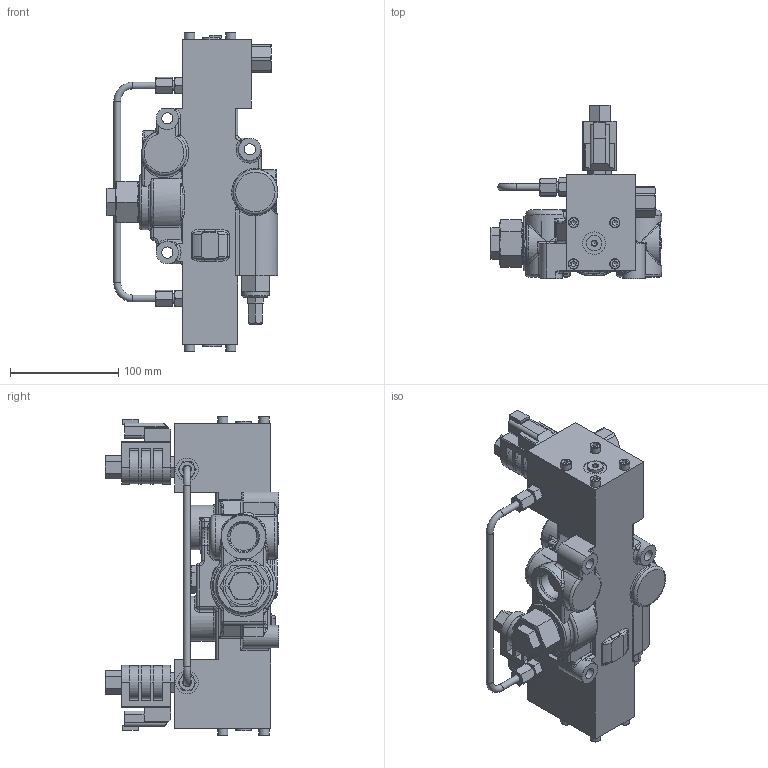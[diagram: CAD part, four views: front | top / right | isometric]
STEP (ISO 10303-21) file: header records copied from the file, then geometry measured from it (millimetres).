
FILE_DESCRIPTION(/* description */ ('','CAx-IF Rec.Pracs.---Representation and Presentation of Product Manufacturing Information (PMI)---3.8---2014-02-18'),/* implementation_level */ '2;1');
FILE_NAME(/* name */ 'C:\Vault\Workspace\RefDataValves\SolidModelShells\WebSolidModelShells\New2017\RD516CA5A4H-DPxxD.stp',/* time_stamp */ '2017-05-15T13:12:54-05:00',/* author */ ('PetersW'),/* organization */ ('Prince Manufacturing Corporation'),/* preprocessor_version */ 'ST-DEVELOPER v16.1',/* originating_system */ 'Autodesk Inventor 2016',/* authorisation */ '');
FILE_SCHEMA (('AP242_MANAGED_MODEL_BASED_3D_ENGINEERING_MIM_LF { 1 0 10303 442 1 1 4 }'));
Products named in the file (1): Part13
Bounding box: 158.1 x 160.07 x 294.64 mm (x, y, z)
Volume: 1734445.9 mm3; surface area: 193185.1 mm2
Topology: 1 solids, 21 shells, 1438 faces, 3510 edges, 2151 vertices
Faces by surface type: plane 667, cylinder 278, cone 213, bspline 180, torus 84, sphere 16
Full cylindrical faces by diameter (mm): 1.96 x4, 3.861 x3, 4.369 x2, 4.75 x1, 6.35 x7, 6.731 x4, 7.874 x4, 8.382 x2, 9.246 x4, 9.525 x9, 10.312 x3, 10.941 x2, 11.112 x2, 11.506 x2, 12.7 x2, 13.005 x2, 13.208 x2, 14.3 x2, 16.688 x1, 20.472 x2, 20.637 x2, 21.031 x4, 24.917 x2, 25.4 x1, 26.975 x6, 30.175 x1, 30.353 x1, 31.267 x1, 34.138 x3, 37.973 x1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
Entity records: 51454 total; most frequent: CARTESIAN_POINT 19149, ORIENTED_EDGE 6466, DIRECTION 5962, EDGE_CURVE 3233, AXIS2_PLACEMENT_3D 2234, VERTEX_POINT 2087, EDGE_LOOP 1726, LINE 1494
